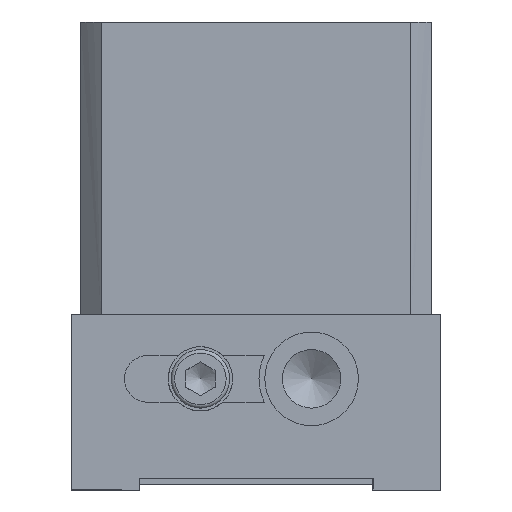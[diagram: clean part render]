
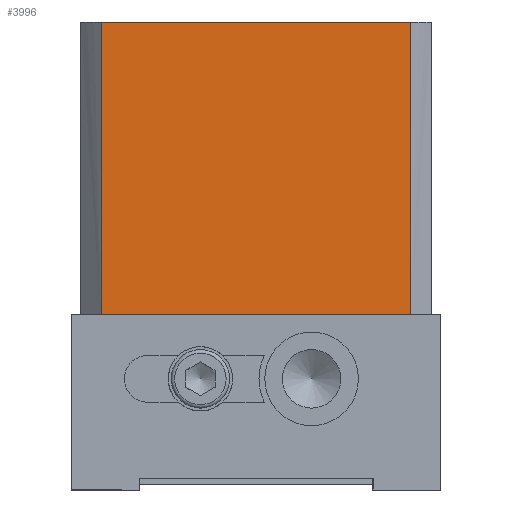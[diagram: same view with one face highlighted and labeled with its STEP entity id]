
A CAD part, left-side view. The second image highlights one B-rep face of the part: STEP entity #3996.
In plain terms, the highlighted planar face has unit normal (-1, 0, 0).
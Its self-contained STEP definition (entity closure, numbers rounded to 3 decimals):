
#2849=CARTESIAN_POINT('',(-30.,3.542,-50.0));
#2850=VERTEX_POINT('',#2849);
#2860=CARTESIAN_POINT('',(-30.,56.458,-50.0));
#2861=VERTEX_POINT('',#2860);
#2862=CARTESIAN_POINT('',(-30.,56.458,-50.));
#2863=DIRECTION('',(0.0,-1.0,0.0));
#2864=VECTOR('',#2863,52.915);
#2865=LINE('',#2862,#2864);
#2866=EDGE_CURVE('',#2861,#2850,#2865,.T.);
#3966=CARTESIAN_POINT('',(-30.,56.458,0.0));
#3967=DIRECTION('',(-1.0,0.0,0.0));
#3968=DIRECTION('',(0.0,0.0,1.0));
#3969=AXIS2_PLACEMENT_3D('',#3966,#3967,#3968);
#3970=PLANE('',#3969);
#3971=ORIENTED_EDGE('',*,*,#2866,.T.);
#3972=CARTESIAN_POINT('',(-30.,3.542,0.0));
#3973=VERTEX_POINT('',#3972);
#3974=CARTESIAN_POINT('',(-30.,3.542,0.0));
#3975=DIRECTION('',(0.0,0.0,-1.0));
#3976=VECTOR('',#3975,50.0);
#3977=LINE('',#3974,#3976);
#3978=EDGE_CURVE('',#3973,#2850,#3977,.T.);
#3979=ORIENTED_EDGE('',*,*,#3978,.F.);
#3980=CARTESIAN_POINT('',(-30.,56.458,0.0));
#3981=VERTEX_POINT('',#3980);
#3982=CARTESIAN_POINT('',(-30.0,56.458,0.0));
#3983=DIRECTION('',(0.0,-1.0,0.0));
#3984=VECTOR('',#3983,52.915);
#3985=LINE('',#3982,#3984);
#3986=EDGE_CURVE('',#3981,#3973,#3985,.T.);
#3987=ORIENTED_EDGE('',*,*,#3986,.F.);
#3988=CARTESIAN_POINT('',(-30.,56.458,0.0));
#3989=DIRECTION('',(0.0,0.0,-1.0));
#3990=VECTOR('',#3989,50.0);
#3991=LINE('',#3988,#3990);
#3992=EDGE_CURVE('',#3981,#2861,#3991,.T.);
#3993=ORIENTED_EDGE('',*,*,#3992,.T.);
#3994=EDGE_LOOP('',(#3971,#3979,#3987,#3993));
#3995=FACE_OUTER_BOUND('',#3994,.T.);
#3996=ADVANCED_FACE('',(#3995),#3970,.T.);
